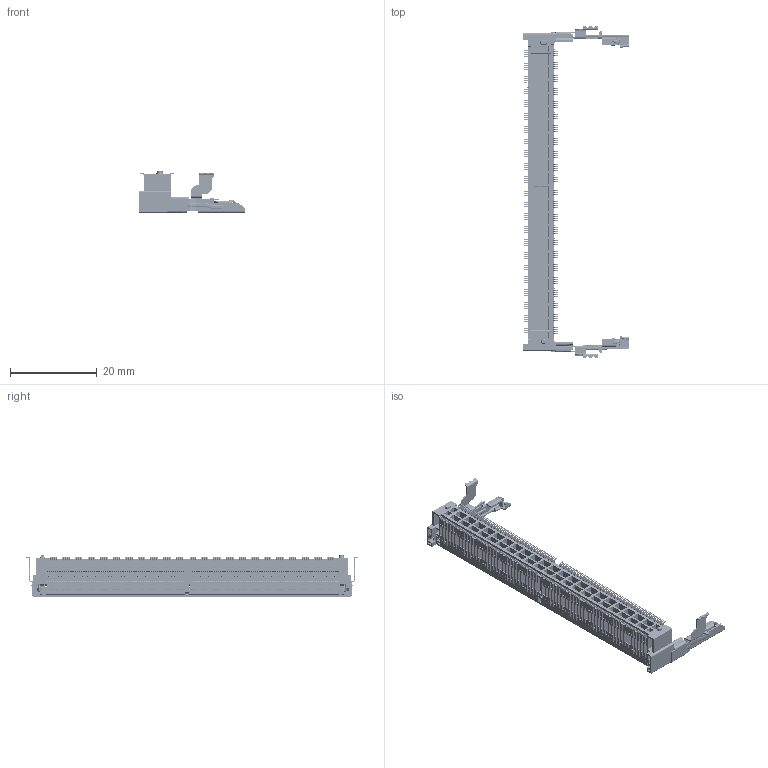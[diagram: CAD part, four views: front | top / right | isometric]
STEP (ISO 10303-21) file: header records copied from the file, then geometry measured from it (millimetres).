
FILE_DESCRIPTION((''),'2;1');
FILE_NAME('D5ARX-262XX-XX92X','2024-09-03T12:19:40',('MichaelSun'),(''),'CREO PARAMETRIC BY PTC INC, 2022424','CREO PARAMETRIC BY PTC INC, 2022424','');
FILE_SCHEMA(('AUTOMOTIVE_DESIGN { 1 0 10303 214 1 1 1 1 }'));
Products named in the file (1): D5ARX-262XX-XX92X
Bounding box: 24.41 x 76.41 x 9.65 mm (x, y, z)
Volume: 2204.5 mm3; surface area: 8126.4 mm2
Topology: 1 solids, 3 shells, 17671 faces, 54428 edges, 36135 vertices
Faces by surface type: plane 10755, cylinder 6626, bspline 128, cone 82, torus 78, sphere 2
Entity records: 699749 total; most frequent: CARTESIAN_POINT 113904, ORIENTED_EDGE 108844, DIRECTION 104049, EDGE_CURVE 54426, VECTOR 39293, LINE 39293, VERTEX_POINT 36135, AXIS2_PLACEMENT_3D 32378
